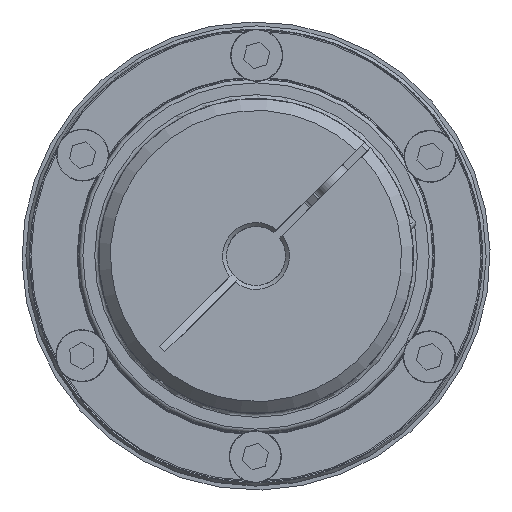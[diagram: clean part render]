
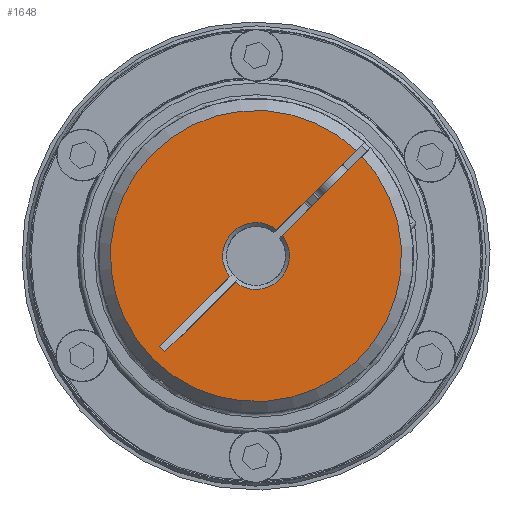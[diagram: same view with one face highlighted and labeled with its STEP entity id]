
A CAD part, left-side view. The second image highlights one B-rep face of the part: STEP entity #1648.
In plain terms, the highlighted planar face has unit normal (-1, 0, 0) as drawn and (0, 0, -1) by its records, which use the part's own axes.
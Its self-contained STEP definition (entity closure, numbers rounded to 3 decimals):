
#1648 = ADVANCED_FACE( '', ( #3232 ), #3233, .T. );
#3232 = FACE_OUTER_BOUND( '', #4742, .T. );
#3233 = PLANE( '', #4743 );
#4742 = EDGE_LOOP( '', ( #7606, #7607, #7608, #7609, #7610, #7611, #7612, #7613 ) );
#4743 = AXIS2_PLACEMENT_3D( '', #7614, #7615, #7616 );
#7606 = ORIENTED_EDGE( '', *, *, #8904, .F. );
#7607 = ORIENTED_EDGE( '', *, *, #7885, .T. );
#7608 = ORIENTED_EDGE( '', *, *, #8562, .T. );
#7609 = ORIENTED_EDGE( '', *, *, #8124, .T. );
#7610 = ORIENTED_EDGE( '', *, *, #8205, .T. );
#7611 = ORIENTED_EDGE( '', *, *, #8781, .T. );
#7612 = ORIENTED_EDGE( '', *, *, #8215, .F. );
#7613 = ORIENTED_EDGE( '', *, *, #8868, .T. );
#7614 = CARTESIAN_POINT( '', ( 0., 0., 0. ) );
#7615 = DIRECTION( '', ( 0., 0., -1. ) );
#7616 = DIRECTION( '', ( -1., 0., 0. ) );
#7885 = EDGE_CURVE( '', #9019, #9023, #9025, .T. );
#8124 = EDGE_CURVE( '', #9418, #9415, #9419, .F. );
#8205 = EDGE_CURVE( '', #9415, #9546, #9548, .T. );
#8215 = EDGE_CURVE( '', #9561, #9564, #9565, .T. );
#8562 = EDGE_CURVE( '', #9023, #9418, #10084, .T. );
#8781 = EDGE_CURVE( '', #9546, #9564, #10375, .T. );
#8868 = EDGE_CURVE( '', #9561, #10476, #10477, .F. );
#8904 = EDGE_CURVE( '', #9019, #10476, #10516, .T. );
#9019 = VERTEX_POINT( '', #10659 );
#9023 = VERTEX_POINT( '', #10666 );
#9025 = CIRCLE( '', #10671, 37. );
#9415 = VERTEX_POINT( '', #11319 );
#9418 = VERTEX_POINT( '', #11325 );
#9419 = CIRCLE( '', #11326, 8.5 );
#9546 = VERTEX_POINT( '', #11484 );
#9548 = LINE( '', #11486, #11487 );
#9561 = VERTEX_POINT( '', #11506 );
#9564 = VERTEX_POINT( '', #11512 );
#9565 = LINE( '', #11513, #11514 );
#10084 = LINE( '', #12397, #12398 );
#10375 = LINE( '', #12998, #12999 );
#10476 = VERTEX_POINT( '', #13131 );
#10477 = CIRCLE( '', #13132, 8.5 );
#10516 = LINE( '', #13247, #13248 );
#10659 = CARTESIAN_POINT( '', ( -36.986, 1., 0. ) );
#10666 = CARTESIAN_POINT( '', ( -36.986, -1., 0. ) );
#10671 = AXIS2_PLACEMENT_3D( '', #13421, #13422, #13423 );
#11319 = CARTESIAN_POINT( '', ( 8.441, -1., 0. ) );
#11325 = CARTESIAN_POINT( '', ( -8.441, -1., 0. ) );
#11326 = AXIS2_PLACEMENT_3D( '', #13767, #13768, #13769 );
#11484 = CARTESIAN_POINT( '', ( 33.604, -1., 0. ) );
#11486 = CARTESIAN_POINT( '', ( -40., -1., 0. ) );
#11487 = VECTOR( '', #13903, 1000. );
#11506 = CARTESIAN_POINT( '', ( 8.441, 1., 0. ) );
#11512 = CARTESIAN_POINT( '', ( 33.604, 1., 0. ) );
#11513 = CARTESIAN_POINT( '', ( -40., 1., 0. ) );
#11514 = VECTOR( '', #13913, 1000. );
#12397 = CARTESIAN_POINT( '', ( -40., -1., 0. ) );
#12398 = VECTOR( '', #14400, 1000. );
#12998 = CARTESIAN_POINT( '', ( 33.604, -1., 0. ) );
#12999 = VECTOR( '', #14694, 1000. );
#13131 = CARTESIAN_POINT( '', ( -8.441, 1., 0. ) );
#13132 = AXIS2_PLACEMENT_3D( '', #14778, #14779, #14780 );
#13247 = CARTESIAN_POINT( '', ( -40., 1., 0. ) );
#13248 = VECTOR( '', #14799, 1000. );
#13421 = CARTESIAN_POINT( '', ( 0., 0., 0. ) );
#13422 = DIRECTION( '', ( 0., 0., -1. ) );
#13423 = DIRECTION( '', ( -1., 0., 0. ) );
#13767 = CARTESIAN_POINT( '', ( 0., 0., 0. ) );
#13768 = DIRECTION( '', ( 0., 0., -1. ) );
#13769 = DIRECTION( '', ( -1., 0., 0. ) );
#13903 = DIRECTION( '', ( 1., 0., 0. ) );
#13913 = DIRECTION( '', ( 1., 0., 0. ) );
#14400 = DIRECTION( '', ( 1., 0., 0. ) );
#14694 = DIRECTION( '', ( 0., 1., 0. ) );
#14778 = CARTESIAN_POINT( '', ( 0., 0., 0. ) );
#14779 = DIRECTION( '', ( 0., 0., -1. ) );
#14780 = DIRECTION( '', ( -1., 0., 0. ) );
#14799 = DIRECTION( '', ( 1., 0., 0. ) );
